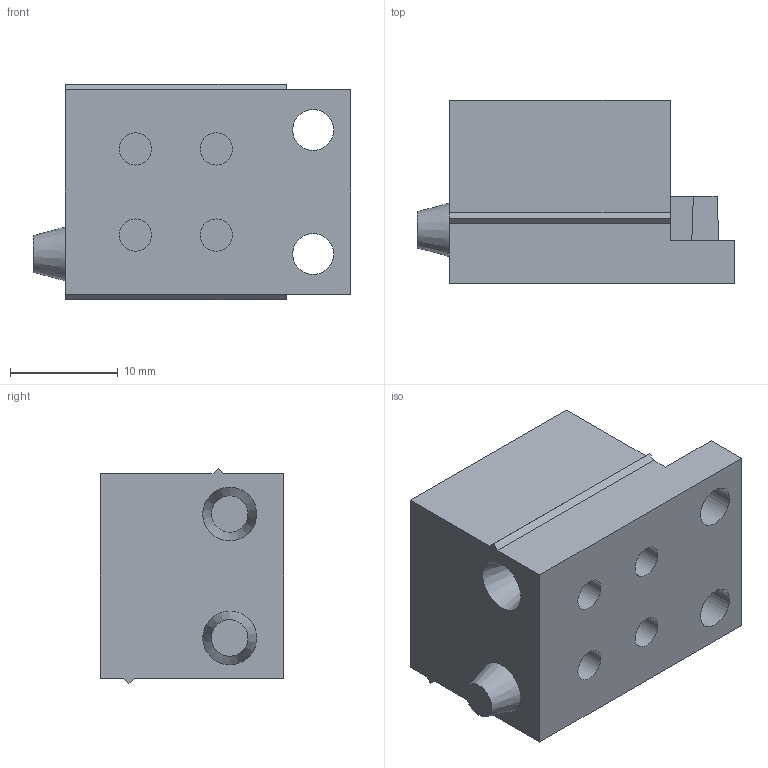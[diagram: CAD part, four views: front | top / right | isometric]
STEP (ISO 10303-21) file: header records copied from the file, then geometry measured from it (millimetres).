
FILE_DESCRIPTION(/* description */ ('STEP AP203'),/* implementation_level */ '2;1');
FILE_NAME(/* name */ '107835 TMS-STPG-GY',/* time_stamp */ '2024-10-04T14:43:02+02:00',/* author */ ('License CC BY-ND 4.0'),/* organization */ ('CADENAS'),/* preprocessor_version */ 'ST-DEVELOPER v19.3',/* originating_system */ 'PARTsolutions',/* authorisation */ ' ');
FILE_SCHEMA (('CONFIG_CONTROL_DESIGN'));
Length unit declared in the file: millimetre
Products named in the file (1): 107835 TMS-STPG-GY
Bounding box: 29.5 x 17 x 20 mm (x, y, z)
Volume: 6908.2 mm3; surface area: 2811.4 mm2
Topology: 1 solids, 1 shells, 44 faces, 96 edges, 64 vertices
Faces by surface type: plane 32, cylinder 10, cone 2
Full cylindrical faces by diameter (mm): 3 x8, 3.8 x2
Entity records: 1182 total; most frequent: DIRECTION 198, CARTESIAN_POINT 193, ORIENTED_EDGE 168, EDGE_CURVE 84, EDGE_LOOP 70, FACE_BOUND 70, AXIS2_PLACEMENT_3D 69, VERTEX_POINT 64
